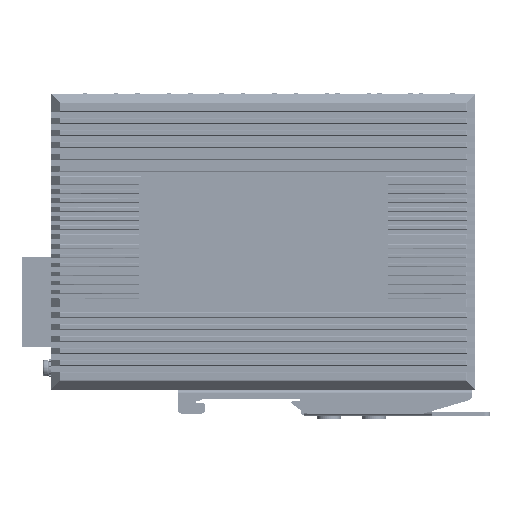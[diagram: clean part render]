
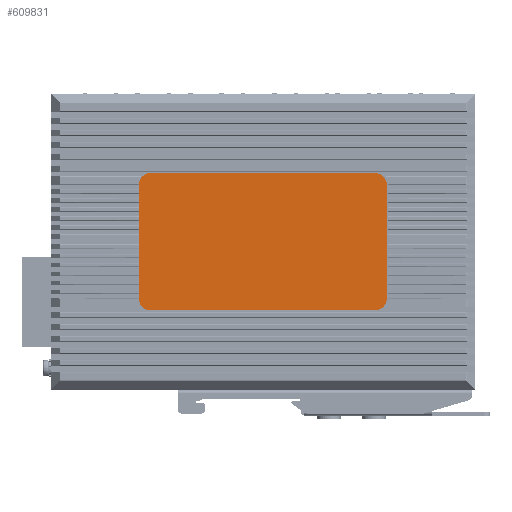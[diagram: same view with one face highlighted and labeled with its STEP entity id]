
A CAD part, front view. The second image highlights one B-rep face of the part: STEP entity #609831.
In plain terms, the highlighted planar face has unit normal (0, -1, 0).
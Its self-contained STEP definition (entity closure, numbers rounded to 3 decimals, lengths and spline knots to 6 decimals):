
#5933=CIRCLE('',#649672,0.004);
#5934=CIRCLE('',#649675,0.004);
#5935=CIRCLE('',#649678,0.004);
#5936=CIRCLE('',#649681,0.004);
#52348=ORIENTED_EDGE('',*,*,#220800,.T.);
#52349=ORIENTED_EDGE('',*,*,#220799,.F.);
#52350=ORIENTED_EDGE('',*,*,#220796,.T.);
#52351=ORIENTED_EDGE('',*,*,#220795,.F.);
#52352=ORIENTED_EDGE('',*,*,#220792,.T.);
#52353=ORIENTED_EDGE('',*,*,#220791,.F.);
#52354=ORIENTED_EDGE('',*,*,#220787,.T.);
#52355=ORIENTED_EDGE('',*,*,#220802,.F.);
#220787=EDGE_CURVE('',#307038,#307039,#369007,.T.);
#220791=EDGE_CURVE('',#307038,#307040,#5933,.T.);
#220792=EDGE_CURVE('',#307041,#307040,#369011,.T.);
#220795=EDGE_CURVE('',#307041,#307042,#5934,.T.);
#220796=EDGE_CURVE('',#307043,#307042,#369014,.T.);
#220799=EDGE_CURVE('',#307043,#307044,#5935,.T.);
#220800=EDGE_CURVE('',#307045,#307044,#369017,.T.);
#220802=EDGE_CURVE('',#307045,#307039,#5936,.T.);
#307038=VERTEX_POINT('',#887641);
#307039=VERTEX_POINT('',#887642);
#307040=VERTEX_POINT('',#887647);
#307041=VERTEX_POINT('',#887651);
#307042=VERTEX_POINT('',#887655);
#307043=VERTEX_POINT('',#887659);
#307044=VERTEX_POINT('',#887663);
#307045=VERTEX_POINT('',#887667);
#369007=LINE('',#887640,#443897);
#369011=LINE('',#887650,#443901);
#369014=LINE('',#887658,#443904);
#369017=LINE('',#887666,#443907);
#443897=VECTOR('',#714406,1.);
#443901=VECTOR('',#714416,1.);
#443904=VECTOR('',#714425,1.);
#443907=VECTOR('',#714434,1.);
#512628=EDGE_LOOP('',(#52348,#52349,#52350,#52351,#52352,#52353,#52354,
#52355));
#548663=FACE_BOUND('',#512628,.T.);
#583527=PLANE('',#649682);
#609831=ADVANCED_FACE('',(#548663),#583527,.F.);
#649672=AXIS2_PLACEMENT_3D('',#887648,#714412,#714413);
#649675=AXIS2_PLACEMENT_3D('',#887656,#714421,#714422);
#649678=AXIS2_PLACEMENT_3D('',#887664,#714430,#714431);
#649681=AXIS2_PLACEMENT_3D('',#887670,#714438,#714439);
#649682=AXIS2_PLACEMENT_3D('',#887671,#714440,#714441);
#714406=DIRECTION('',(1.,0.,0.));
#714412=DIRECTION('',(0.,1.,0.));
#714413=DIRECTION('',(0.,0.,-1.));
#714416=DIRECTION('',(0.,0.,-1.));
#714421=DIRECTION('',(0.,1.,0.));
#714422=DIRECTION('',(-1.,0.,0.));
#714425=DIRECTION('',(-1.,0.,0.));
#714430=DIRECTION('',(0.,1.,0.));
#714431=DIRECTION('',(0.,0.,1.));
#714434=DIRECTION('',(0.,0.,1.));
#714438=DIRECTION('',(0.,1.,0.));
#714439=DIRECTION('',(1.,0.,0.));
#714440=DIRECTION('',(0.,1.,0.));
#714441=DIRECTION('',(1.,0.,0.));
#887640=CARTESIAN_POINT('',(-0.0375,-0.0076,-0.023996));
#887641=CARTESIAN_POINT('',(-0.0375,-0.0076,-0.023996));
#887642=CARTESIAN_POINT('',(0.0375,-0.0076,-0.023996));
#887647=CARTESIAN_POINT('',(-0.0415,-0.0076,-0.019996));
#887648=CARTESIAN_POINT('',(-0.0375,-0.0076,-0.019996));
#887650=CARTESIAN_POINT('',(-0.0415,-0.0076,0.018004));
#887651=CARTESIAN_POINT('',(-0.0415,-0.0076,0.018004));
#887655=CARTESIAN_POINT('',(-0.0375,-0.0076,0.022004));
#887656=CARTESIAN_POINT('',(-0.0375,-0.0076,0.018004));
#887658=CARTESIAN_POINT('',(0.0375,-0.0076,0.022004));
#887659=CARTESIAN_POINT('',(0.0375,-0.0076,0.022004));
#887663=CARTESIAN_POINT('',(0.0415,-0.0076,0.018004));
#887664=CARTESIAN_POINT('',(0.0375,-0.0076,0.018004));
#887666=CARTESIAN_POINT('',(0.0415,-0.0076,-0.019996));
#887667=CARTESIAN_POINT('',(0.0415,-0.0076,-0.019996));
#887670=CARTESIAN_POINT('',(0.0375,-0.0076,-0.019996));
#887671=CARTESIAN_POINT('',(0.,-0.0076,-0.000996));
